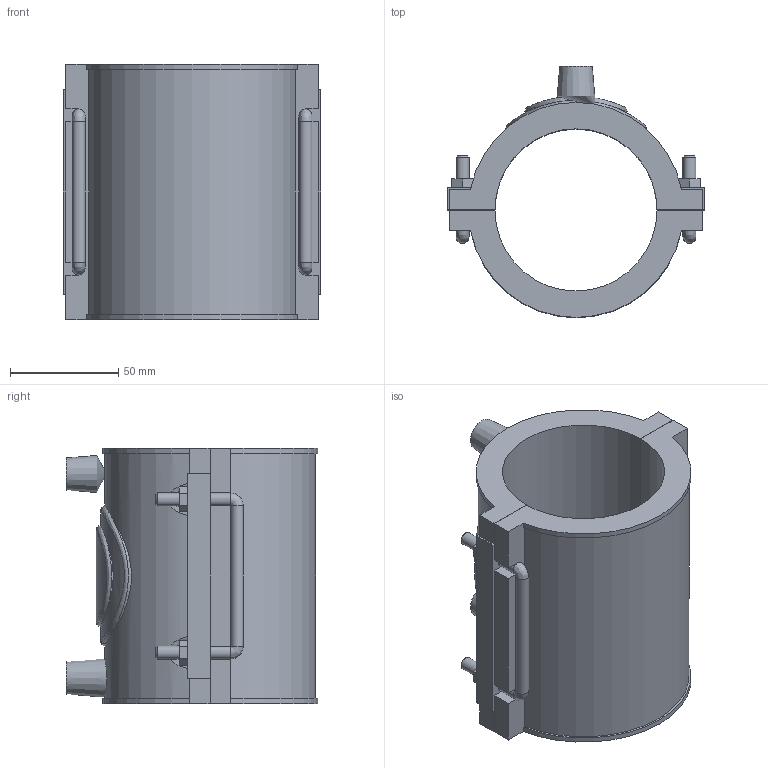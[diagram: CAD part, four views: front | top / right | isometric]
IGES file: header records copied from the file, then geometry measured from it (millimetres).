
Global section: file name: 495204075.ipt; native system: Autodesk Inventor 2015; preprocessor: unknown; author: KIM; date: 20171106.094226; units: millimetre
Bounding box: 119 x 116.22 x 118 mm (x, y, z)
Volume: 429823.3 mm3; surface area: 95197.1 mm2
Topology: 2 solids, 2 shells, 133 faces, 342 edges, 216 vertices
Faces by surface type: plane 84, cylinder 25, bspline 10, revolution 8, cone 6
Full cylindrical faces by diameter (mm): 4 x2, 6 x10
